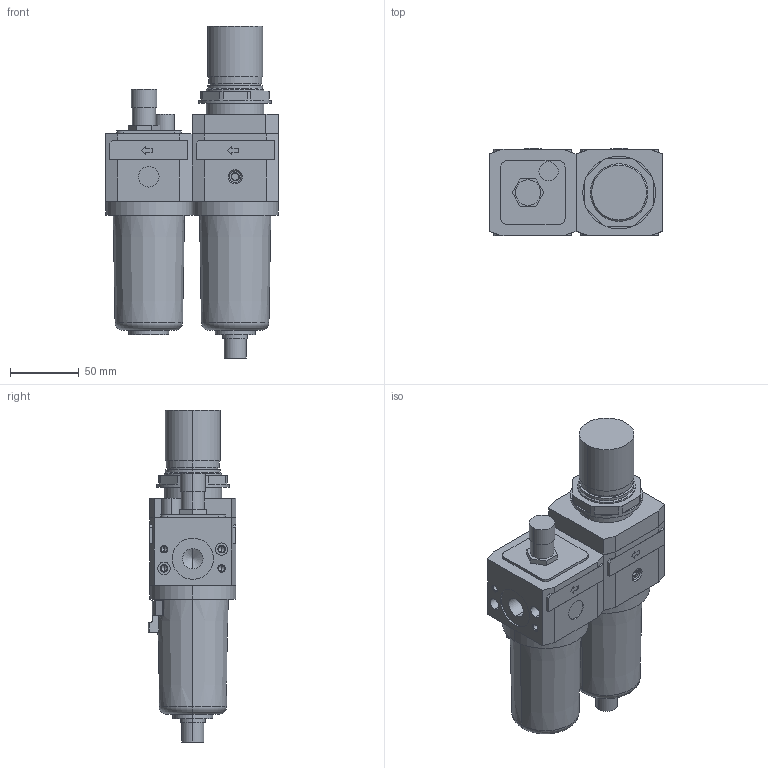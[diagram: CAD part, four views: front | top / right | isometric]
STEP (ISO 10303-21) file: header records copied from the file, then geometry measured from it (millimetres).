
FILE_DESCRIPTION((''),'2;1');
FILE_NAME('I:\DOC-EDP\Lib-3d\FRL\17306A_.stp','2003-06-16T14:59:07',('maffial1'),(''),'Autodesk Inventor 7','Autodesk Inventor 7','');
FILE_SCHEMA(('AUTOMOTIVE_DESIGN { 1 0 10303 214 1 1 1 1 }'));
Length unit declared in the file: millimetre
Products named in the file (6): 17306A_; 17303A; 17304A_; 17304A_(1); RS_1702_12; RK_1701_020
Assembly tree (5 placements, depth 3):
  17306A_
    17303A
    17304A_
      17304A_(1)
      RS_1702_12
      RK_1701_020
Bounding box: 126 x 64.18 x 242.2 mm (x, y, z)
Volume: 928179.9 mm3; surface area: 114051.9 mm2
Topology: 4 solids, 8 shells, 425 faces, 1027 edges, 635 vertices
Faces by surface type: plane 164, bspline 153, cylinder 72, cone 28, torus 8
Entity records: 13547 total; most frequent: CARTESIAN_POINT 3945, ORIENTED_EDGE 1982, DIRECTION 1880, EDGE_CURVE 991, VECTOR 644, LINE 644, VERTEX_POINT 635, AXIS2_PLACEMENT_3D 618
